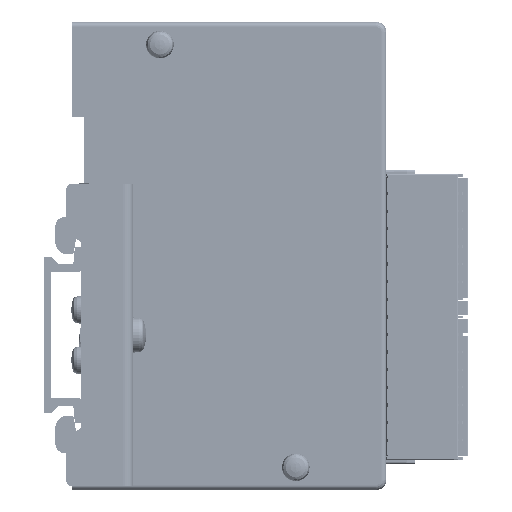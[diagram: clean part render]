
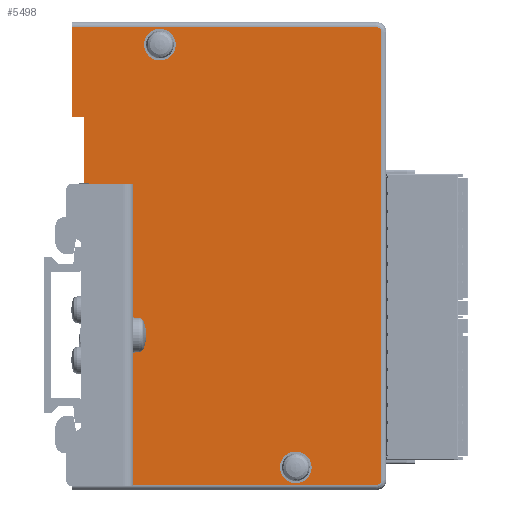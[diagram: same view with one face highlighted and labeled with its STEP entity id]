
A CAD part, left-side view. The second image highlights one B-rep face of the part: STEP entity #5498.
In plain terms, the highlighted planar face has unit normal (-1, 0, 0).
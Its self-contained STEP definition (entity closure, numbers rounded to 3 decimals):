
#5498=ADVANCED_FACE('',(#58976,#58977,#58978),#58975,.T.);
#58975=PLANE('',#108673);
#58976=FACE_OUTER_BOUND('',#108674,.T.);
#58977=FACE_BOUND('',#108675,.T.);
#58978=FACE_BOUND('',#108676,.T.);
#108670=CARTESIAN_POINT('',(0.,-73.25,-38.9));
#108671=DIRECTION('',(-1.,0.,0.));
#108672=DIRECTION('',(0.,0.,1.));
#108673=AXIS2_PLACEMENT_3D('',#108670,#108671,#108672);
#108674=EDGE_LOOP('',(#145614,#145615,#145616,#145617,#145618,#145619,#145620,#145621,#145622,#145623,#145624,#145625,#145626,#145627));
#108675=EDGE_LOOP('',(#145628,#145629));
#108676=EDGE_LOOP('',(#145630,#145631));
#145614=ORIENTED_EDGE('',*,*,#167279,.F.);
#145615=ORIENTED_EDGE('',*,*,#167199,.F.);
#145616=ORIENTED_EDGE('',*,*,#167201,.F.);
#145617=ORIENTED_EDGE('',*,*,#167154,.T.);
#145618=ORIENTED_EDGE('',*,*,#167302,.F.);
#145619=ORIENTED_EDGE('',*,*,#167303,.F.);
#145620=ORIENTED_EDGE('',*,*,#167308,.F.);
#145621=ORIENTED_EDGE('',*,*,#167315,.T.);
#145622=ORIENTED_EDGE('',*,*,#167316,.T.);
#145623=ORIENTED_EDGE('',*,*,#167317,.T.);
#145624=ORIENTED_EDGE('',*,*,#167318,.T.);
#145625=ORIENTED_EDGE('',*,*,#167319,.T.);
#145626=ORIENTED_EDGE('',*,*,#167271,.F.);
#145627=ORIENTED_EDGE('',*,*,#167276,.F.);
#145628=ORIENTED_EDGE('',*,*,#167320,.F.);
#145629=ORIENTED_EDGE('',*,*,#167321,.F.);
#145630=ORIENTED_EDGE('',*,*,#167322,.F.);
#145631=ORIENTED_EDGE('',*,*,#167323,.F.);
#167154=EDGE_CURVE('',#261302,#261303,#261304,.T.);
#167199=EDGE_CURVE('',#261599,#261606,#261607,.T.);
#167201=EDGE_CURVE('',#261302,#261599,#261619,.T.);
#167271=EDGE_CURVE('',#262089,#262090,#262091,.T.);
#167276=EDGE_CURVE('',#262123,#262089,#262124,.T.);
#167279=EDGE_CURVE('',#261606,#262123,#262143,.T.);
#167302=EDGE_CURVE('',#262288,#261303,#262295,.T.);
#167303=EDGE_CURVE('',#262301,#262288,#262302,.T.);
#167308=EDGE_CURVE('',#262329,#262301,#262336,.T.);
#167315=EDGE_CURVE('',#262329,#262379,#262380,.T.);
#167316=EDGE_CURVE('',#262379,#262386,#262387,.T.);
#167317=EDGE_CURVE('',#262386,#262393,#262394,.T.);
#167318=EDGE_CURVE('',#262393,#262400,#262401,.T.);
#167319=EDGE_CURVE('',#262400,#262090,#262407,.T.);
#167320=EDGE_CURVE('',#262413,#262414,#262415,.T.);
#167321=EDGE_CURVE('',#262414,#262413,#262421,.T.);
#167322=EDGE_CURVE('',#262427,#262428,#262429,.T.);
#167323=EDGE_CURVE('',#262428,#262427,#262435,.T.);
#261302=VERTEX_POINT('',#340251);
#261303=VERTEX_POINT('',#340252);
#261304=LINE('',#340253,#340254);
#261599=VERTEX_POINT('',#340429);
#261606=VERTEX_POINT('',#340433);
#261607=LINE('',#340434,#340435);
#261619=LINE('',#340440,#340441);
#262089=VERTEX_POINT('',#340708);
#262090=VERTEX_POINT('',#340709);
#262091=LINE('',#340710,#340711);
#262123=VERTEX_POINT('',#340729);
#262124=LINE('',#340730,#340731);
#262143=LINE('',#340740,#340741);
#262288=VERTEX_POINT('',#340823);
#262295=LINE('',#340827,#340828);
#262301=VERTEX_POINT('',#340830);
#262302=LINE('',#340831,#340832);
#262329=VERTEX_POINT('',#340846);
#262336=LINE('',#340851,#340852);
#262379=VERTEX_POINT('',#340874);
#262380=LINE('',#340875,#340876);
#262386=VERTEX_POINT('',#340878);
#262387=CIRCLE('',#340882,1.);
#262393=VERTEX_POINT('',#340883);
#262394=LINE('',#340884,#340885);
#262400=VERTEX_POINT('',#340887);
#262401=CIRCLE('',#340891,1.);
#262407=LINE('',#340892,#340893);
#262413=VERTEX_POINT('',#340895);
#262414=VERTEX_POINT('',#340896);
#262415=CIRCLE('',#340900,3.15);
#262421=CIRCLE('',#340904,3.15);
#262427=VERTEX_POINT('',#340905);
#262428=VERTEX_POINT('',#340906);
#262429=CIRCLE('',#340910,3.15);
#262435=CIRCLE('',#340914,3.15);
#340251=CARTESIAN_POINT('',(0.,-9.1,-10.1));
#340252=CARTESIAN_POINT('',(0.,-8.1,-10.1));
#340253=CARTESIAN_POINT('',(0.,-9.1,-10.1));
#340254=VECTOR('',#340255,1.);
#340255=DIRECTION('',(0.,1.,0.));
#340429=CARTESIAN_POINT('',(0.,-9.1,30.2));
#340433=CARTESIAN_POINT('',(0.,-8.1,30.2));
#340434=CARTESIAN_POINT('',(0.,-9.1,30.2));
#340435=VECTOR('',#340436,1.);
#340436=DIRECTION('',(0.,1.,0.));
#340440=CARTESIAN_POINT('',(0.,-9.1,-10.1));
#340441=VECTOR('',#340442,40.3);
#340442=DIRECTION('',(0.,0.,1.));
#340708=CARTESIAN_POINT('',(0.,-5.6,43.4));
#340709=CARTESIAN_POINT('',(0.,-5.6,61.2));
#340710=CARTESIAN_POINT('',(0.,-5.6,43.4));
#340711=VECTOR('',#340712,17.8);
#340712=DIRECTION('',(0.,0.,1.));
#340729=CARTESIAN_POINT('',(0.,-8.1,43.4));
#340730=CARTESIAN_POINT('',(0.,-8.1,43.4));
#340731=VECTOR('',#340732,2.5);
#340732=DIRECTION('',(0.,1.,0.));
#340740=CARTESIAN_POINT('',(0.,-8.1,30.2));
#340741=VECTOR('',#340742,13.2);
#340742=DIRECTION('',(0.,0.,1.));
#340823=CARTESIAN_POINT('',(0.,-8.1,-20.8));
#340827=CARTESIAN_POINT('',(0.,-8.1,-20.8));
#340828=VECTOR('',#340829,10.7);
#340829=DIRECTION('',(0.,0.,1.));
#340830=CARTESIAN_POINT('',(0.,-5.6,-20.8));
#340831=CARTESIAN_POINT('',(0.,-5.6,-20.8));
#340832=VECTOR('',#340833,2.5);
#340833=DIRECTION('',(0.,-1.,0.));
#340846=CARTESIAN_POINT('',(0.,-5.6,-29.8));
#340851=CARTESIAN_POINT('',(0.,-5.6,-29.8));
#340852=VECTOR('',#340853,9.);
#340853=DIRECTION('',(0.,0.,1.));
#340874=CARTESIAN_POINT('',(0.,-66.1,-29.8));
#340875=CARTESIAN_POINT('',(0.,-5.6,-29.8));
#340876=VECTOR('',#340877,60.5);
#340877=DIRECTION('',(0.,-1.,0.));
#340878=CARTESIAN_POINT('',(0.,-67.1,-28.8));
#340879=CARTESIAN_POINT('',(0.,-66.1,-28.8));
#340880=DIRECTION('',(-1.,0.,0.));
#340881=DIRECTION('',(0.,0.,-1.));
#340882=AXIS2_PLACEMENT_3D('',#340879,#340880,#340881);
#340883=CARTESIAN_POINT('',(0.,-67.1,60.2));
#340884=CARTESIAN_POINT('',(0.,-67.1,-28.8));
#340885=VECTOR('',#340886,89.);
#340886=DIRECTION('',(0.,0.,1.));
#340887=CARTESIAN_POINT('',(0.,-66.1,61.2));
#340888=CARTESIAN_POINT('',(0.,-66.1,60.2));
#340889=DIRECTION('',(-1.,0.,0.));
#340890=DIRECTION('',(0.,0.,-1.));
#340891=AXIS2_PLACEMENT_3D('',#340888,#340889,#340890);
#340892=CARTESIAN_POINT('',(0.,-66.1,61.2));
#340893=VECTOR('',#340894,60.5);
#340894=DIRECTION('',(0.,1.,0.));
#340895=CARTESIAN_POINT('',(0.,-50.1,-23.15));
#340896=CARTESIAN_POINT('',(0.,-50.1,-29.45));
#340897=CARTESIAN_POINT('',(0.,-50.1,-26.3));
#340898=DIRECTION('',(-1.,0.,0.));
#340899=DIRECTION('',(0.,0.,-1.));
#340900=AXIS2_PLACEMENT_3D('',#340897,#340898,#340899);
#340901=CARTESIAN_POINT('',(0.,-50.1,-26.3));
#340902=DIRECTION('',(-1.,0.,0.));
#340903=DIRECTION('',(0.,0.,-1.));
#340904=AXIS2_PLACEMENT_3D('',#340901,#340902,#340903);
#340905=CARTESIAN_POINT('',(0.,-23.1,60.85));
#340906=CARTESIAN_POINT('',(0.,-23.1,54.55));
#340907=CARTESIAN_POINT('',(0.,-23.1,57.7));
#340908=DIRECTION('',(-1.,0.,0.));
#340909=DIRECTION('',(0.,0.,-1.));
#340910=AXIS2_PLACEMENT_3D('',#340907,#340908,#340909);
#340911=CARTESIAN_POINT('',(0.,-23.1,57.7));
#340912=DIRECTION('',(-1.,0.,0.));
#340913=DIRECTION('',(0.,0.,-1.));
#340914=AXIS2_PLACEMENT_3D('',#340911,#340912,#340913);
